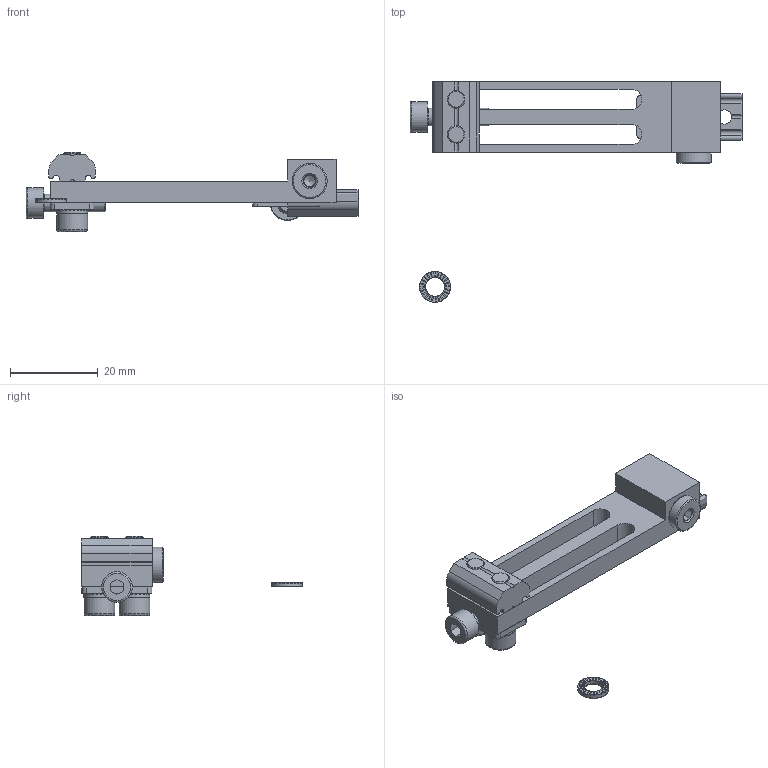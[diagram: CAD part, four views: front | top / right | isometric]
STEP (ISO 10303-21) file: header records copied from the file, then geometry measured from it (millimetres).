
FILE_DESCRIPTION( ( 'STEP AP214' ), '1' );
FILE_NAME( 'C:/Users/Segreteria/Desktop/CA.WLS.M5.M5.X.stp', '2014-07-03T13:22:14', ( ' ' ), ( ' ' ), 'XStep 1.0', ' ', ' ' );
FILE_SCHEMA( ( 'CONFIG_CONTROL_DESIGN) ( )' ) );
Length unit declared in the file: metre
Products named in the file (10): Assem1; Assem2; CA.08.14.013; WLS.M5.M5; R.04.08; R.4.SCH; CA.GWP.4.8; V-tcei M  4 x 14
Bounding box: 75.5 x 50.14 x 18 mm (x, y, z)
Volume: 15042.8 mm3; surface area: 15484.7 mm2
Topology: 14 solids, 18 shells, 1067 faces, 3037 edges, 1997 vertices
Faces by surface type: plane 948, cylinder 86, cone 22, torus 11
Full cylindrical faces by diameter (mm): 2.6 x3, 3.242 x4, 3.8 x3, 4 x4, 4.134 x6, 4.3 x4, 4.6 x4, 5 x3, 7 x8, 8 x3
Entity records: 16838 total; most frequent: CARTESIAN_POINT 2954, DIRECTION 2913, ORIENTED_EDGE 2826, EDGE_CURVE 1413, AXIS2_PLACEMENT_3D 990, VERTEX_POINT 951, LINE 933, VECTOR 933
